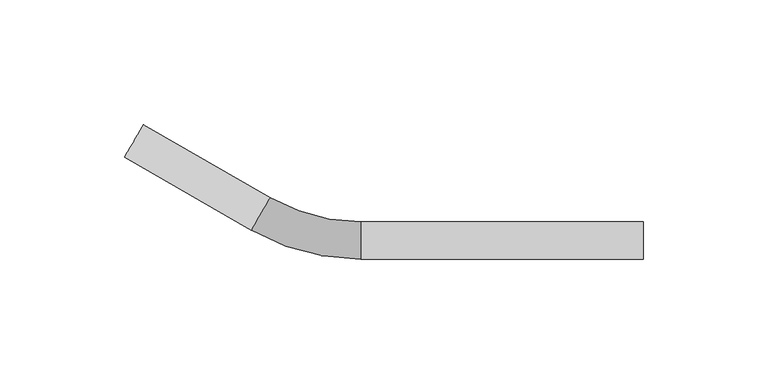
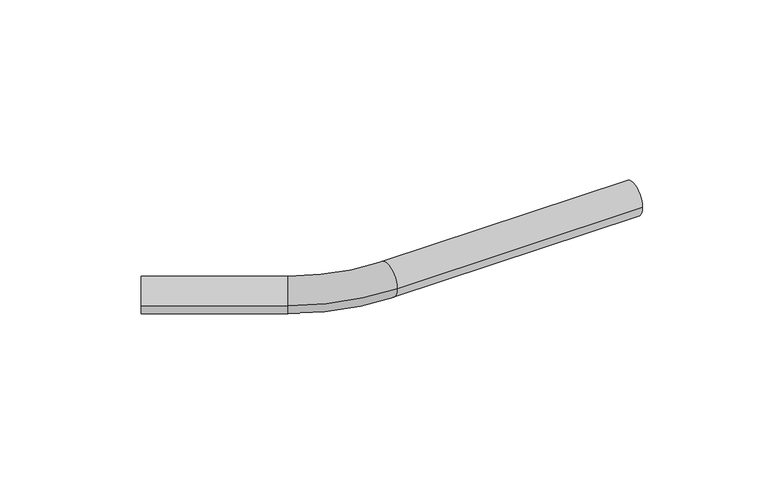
"""IFC4 building model written with IfcOpenShell, lengths in millimetres: pipe fitting geometry, VALTEC_VTi.955.I_Отвод безраструбный_нержавеющая : VTi.955.I."""

from ifc_helpers import new_model, si_unit, point, frame, origin, origin_2d, place, context, project, spatial, circle_curve, ellipse_curve, trimmed, segment, composite_curve, outline, extrude, source, transform, mapped, element, save
from ifc_brep_helpers import plane_surface, revolved_surface, advanced_brep


def pipe_fitting_9288ef21(model_context):
    return source(origin(), model_context, "Body", "SolidModel", [
        advanced_brep(
        [(21.6, -7.5, 0.0), (21.6, 7.5, 0.0), (-22.15, 4.2227772, 0.0), (-14.65, 17.2131582, 0.0)],
        [
            (0, 1, circle_curve(frame((21.6, 0.0, 0.0), z_axis=(1.0, 0.0, 0.0), x_axis=(0.0, 1.0, 0.0)), 7.5)),
            (1, 0, circle_curve(frame((21.6, 0.0, 0.0), z_axis=(1.0, 0.0, 0.0), x_axis=(0.0, 1.0, 0.0)), 7.5)),
            (2, 3, circle_curve(frame((-18.4, 10.7179677, 0.0), z_axis=(-0.8660254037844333, 0.5000000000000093, 0.0), x_axis=(0.5000000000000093, 0.8660254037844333, 0.0)), 7.5)),
            (3, 2, circle_curve(frame((-18.4, 10.7179677, 0.0), z_axis=(-0.8660254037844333, 0.5000000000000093, 0.0), x_axis=(0.5000000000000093, 0.8660254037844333, 0.0)), 7.5)),
            (2, 0, circle_curve(frame((21.6, 80.0, 0.0), z_axis=(0.0, 0.0, 1.0), x_axis=(0.0, -1.0, 0.0)), 87.5)),
            (1, 3, circle_curve(frame((21.6, 80.0, 0.0), z_axis=(0.0, 0.0, -1.0), x_axis=(0.0, -1.0, 0.0)), 72.5)),
        ],
        [
            plane_surface(frame((21.6, 0.0, 0.0), z_axis=(1.0, 0.0, 0.0), x_axis=(0.0, 0.0, 1.0))),
            plane_surface(frame((-18.4, 10.7179677, 0.0), z_axis=(-0.8660254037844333, 0.5000000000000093, 0.0), x_axis=(0.0, 0.0, 1.0))),
            revolved_surface(trimmed(ellipse_curve(frame((21.6, 0.0, 0.0), z_axis=(-1.0, 0.0, 0.0), x_axis=(0.0, 1.0, 0.0)), 7.5, 7.5), [point((21.6, -7.5, 0.0))], [point((21.6, 7.5, 0.0))], True, "CARTESIAN"), (21.6, 80.0, 0.0), (0.0, 0.0, 1.0)),
            revolved_surface(trimmed(ellipse_curve(frame((21.6, 0.0, 0.0), z_axis=(-1.0, 0.0, 0.0), x_axis=(0.0, 1.0, 0.0)), 7.5, 7.5), [point((21.6, 7.5, 0.0))], [point((21.6, -7.5, 0.0))], True, "CARTESIAN"), (21.6, 80.0, 0.0), (0.0, 0.0, 1.0)),
        ],
        [
            (0, [[1, 2]]),
            (1, [[3, 4]]),
            (2, [[-3, 5, -2, 6]]),
            (3, [[-4, -6, -1, -5]]),
        ],
    ),
        extrude(outline(composite_curve([segment(trimmed(circle_curve(origin_2d(), 7.5), [point((0.0, 7.5))], [point((0.0, -7.5))], False, "CARTESIAN"), True, "CONTINUOUS"), segment(trimmed(circle_curve(origin_2d(), 7.5), [point((0.0, -7.5))], [point((0.0, 7.5))], False, "CARTESIAN"), True, "CONTINUOUS")], self_intersect=False)), frame((-18.4463411, 10.65, 0.0), z_axis=(-0.8660254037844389, 0.4999999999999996, 0.0), x_axis=(0.0, 0.0, 1.0)), (0.0, 0.0, 1.0), 58.7),
        extrude(outline(composite_curve([segment(trimmed(circle_curve(origin_2d(), 7.5), [point((7.5, 0.0))], [point((-7.5, 0.0))], False, "CARTESIAN"), True, "CONTINUOUS"), segment(trimmed(circle_curve(origin_2d(), 7.5), [point((-7.5, 0.0))], [point((7.5, 0.0))], False, "CARTESIAN"), True, "CONTINUOUS")], self_intersect=False)), frame((21.6, 0.0, 0.0), z_axis=(1.0, 0.0, 0.0), x_axis=(0.0, 1.0, 0.0)), (0.0, 0.0, 1.0), 113.4),
    ])


if __name__ == "__main__":
    model = new_model("IFC4")
    model_context = context("Model", 3, world=origin())
    ifc_project = project(units=[si_unit("LENGTHUNIT", "METRE", prefix="MILLI")], contexts=[model_context])
    site = spatial("IfcSite", under=ifc_project)
    building = spatial("IfcBuilding", under=site)
    placement = place(None, origin())
    pipe_fitting_shape = pipe_fitting_9288ef21(model_context)
    element("IfcPipeFitting", 1, ObjectType="VALTEC_VTi.955.I_Отвод безраструбный_нержавеющая : VTi.955.I", at=placement, inside=building, context=model_context, shape_type="MappedRepresentation", body=[
        mapped(pipe_fitting_shape, transform((0.0, 0.0, 0.0), x_axis=(1.0, 0.0, 0.0), y_axis=(0.0, 1.0, 0.0), z_axis=(0.0, 0.0, 1.0))),
    ])
    save(model, "model.ifc")
